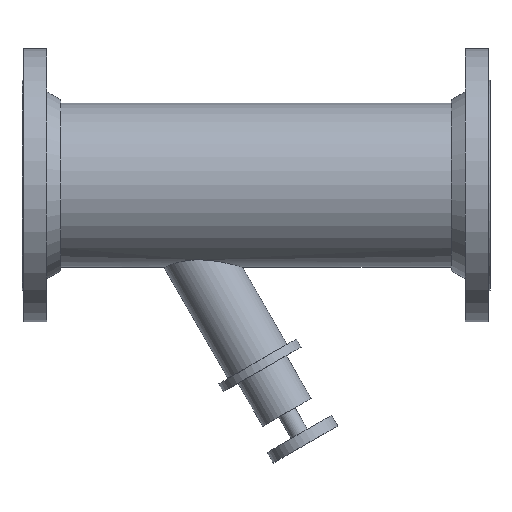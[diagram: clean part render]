
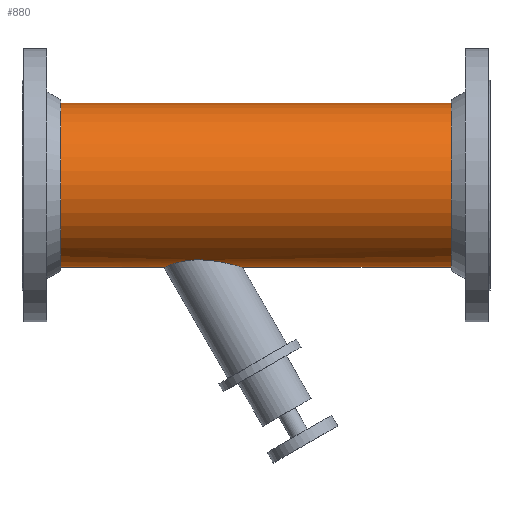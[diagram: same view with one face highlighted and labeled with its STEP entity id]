
A CAD part, top view. The second image highlights one B-rep face of the part: STEP entity #880.
In plain terms, the highlighted cylindrical face has radius 84.138 mm (diameter 168.275 mm), a full revolution.
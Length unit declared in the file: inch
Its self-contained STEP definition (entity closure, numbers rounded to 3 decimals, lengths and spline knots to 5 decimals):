
#47=B_SPLINE_CURVE_WITH_KNOTS('',3,(#1422,#1423,#1424,#1425,#1426,#1427,
#1428,#1429,#1430,#1431,#1432,#1433,#1434,#1435,#1436,#1437,#1438,#1439,
#1440,#1441,#1442,#1443,#1444,#1445,#1446,#1447,#1448,#1449,#1450,#1451,
#1452,#1453,#1454,#1455),.UNSPECIFIED.,.F.,.F.,(4,2,2,2,2,2,2,2,2,2,2,2,
2,2,2,2,4),(6.05031,6.72063,7.39095,8.06127,
8.73158,9.57384,10.4161,11.25836,12.10061,
12.8095,13.5184,14.22729,14.93618,15.59151,
16.24683,16.90216,17.55749),.UNSPECIFIED.);
#48=B_SPLINE_CURVE_WITH_KNOTS('',3,(#1462,#1463,#1464,#1465,#1466,#1467,
#1468,#1469,#1470,#1471,#1472,#1473,#1474,#1475,#1476,#1477,#1478,#1479),
 .UNSPECIFIED.,.F.,.F.,(4,2,2,2,2,2,2,2,4),(17.55749,18.21281,
18.86814,19.52347,20.1788,20.88769,21.59658,
22.30547,23.01436),.UNSPECIFIED.);
#49=B_SPLINE_CURVE_WITH_KNOTS('',3,(#1480,#1481,#1482,#1483,#1484,#1485,
#1486,#1487,#1488,#1489,#1490,#1491,#1492,#1493,#1494,#1495,#1496,#1497),
 .UNSPECIFIED.,.F.,.F.,(4,2,2,2,2,2,2,2,4),(0.,0.84226,1.68451,
2.52677,3.36903,4.03935,4.70967,5.37999,
6.05031),.UNSPECIFIED.);
#51=LINE('',#1420,#81);
#52=LINE('',#1457,#82);
#81=VECTOR('',#1116,3.3125);
#82=VECTOR('',#1117,3.3125);
#111=CYLINDRICAL_SURFACE('',#956,3.3125);
#183=FACE_OUTER_BOUND('',#234,.T.);
#234=EDGE_LOOP('',(#609,#610,#611,#612,#613,#614,#615,#616,#617,#618,#619));
#323=CIRCLE('',#957,3.3125);
#324=CIRCLE('',#958,3.3125);
#325=CIRCLE('',#959,3.3125);
#326=CIRCLE('',#960,3.3125);
#405=VERTEX_POINT('',#1416);
#406=VERTEX_POINT('',#1417);
#407=VERTEX_POINT('',#1419);
#408=VERTEX_POINT('',#1421);
#409=VERTEX_POINT('',#1456);
#410=VERTEX_POINT('',#1458);
#411=VERTEX_POINT('',#1461);
#491=EDGE_CURVE('',#405,#406,#323,.T.);
#492=EDGE_CURVE('',#406,#407,#51,.T.);
#493=EDGE_CURVE('',#407,#408,#47,.T.);
#494=EDGE_CURVE('',#408,#409,#52,.T.);
#495=EDGE_CURVE('',#409,#410,#324,.T.);
#496=EDGE_CURVE('',#410,#409,#325,.T.);
#497=EDGE_CURVE('',#408,#411,#48,.T.);
#498=EDGE_CURVE('',#411,#407,#49,.T.);
#499=EDGE_CURVE('',#406,#405,#326,.T.);
#609=ORIENTED_EDGE('',*,*,#491,.T.);
#610=ORIENTED_EDGE('',*,*,#492,.T.);
#611=ORIENTED_EDGE('',*,*,#493,.T.);
#612=ORIENTED_EDGE('',*,*,#494,.T.);
#613=ORIENTED_EDGE('',*,*,#495,.T.);
#614=ORIENTED_EDGE('',*,*,#496,.T.);
#615=ORIENTED_EDGE('',*,*,#494,.F.);
#616=ORIENTED_EDGE('',*,*,#497,.T.);
#617=ORIENTED_EDGE('',*,*,#498,.T.);
#618=ORIENTED_EDGE('',*,*,#492,.F.);
#619=ORIENTED_EDGE('',*,*,#499,.T.);
#880=ADVANCED_FACE('',(#183),#111,.T.);
#956=AXIS2_PLACEMENT_3D('',#1415,#1112,#1113);
#957=AXIS2_PLACEMENT_3D('',#1418,#1114,#1115);
#958=AXIS2_PLACEMENT_3D('',#1459,#1118,#1119);
#959=AXIS2_PLACEMENT_3D('',#1460,#1120,#1121);
#960=AXIS2_PLACEMENT_3D('',#1498,#1122,#1123);
#1112=DIRECTION('center_axis',(1.,0.,0.));
#1113=DIRECTION('ref_axis',(0.,1.,0.));
#1114=DIRECTION('center_axis',(-1.,0.,0.));
#1115=DIRECTION('ref_axis',(0.,1.,0.));
#1116=DIRECTION('',(-1.,0.,0.));
#1117=DIRECTION('',(-1.,0.,0.));
#1118=DIRECTION('center_axis',(1.,0.,0.));
#1119=DIRECTION('ref_axis',(0.,1.,0.));
#1120=DIRECTION('center_axis',(1.,0.,0.));
#1121=DIRECTION('ref_axis',(0.,1.,0.));
#1122=DIRECTION('center_axis',(-1.,0.,0.));
#1123=DIRECTION('ref_axis',(0.,1.,0.));
#1415=CARTESIAN_POINT('Origin',(0.,0.,0.));
#1416=CARTESIAN_POINT('',(7.89,3.3125,0.));
#1417=CARTESIAN_POINT('',(7.89,-3.3125,0.));
#1418=CARTESIAN_POINT('Origin',(7.89,0.,0.));
#1419=CARTESIAN_POINT('',(-0.54467,-3.3125,0.));
#1420=CARTESIAN_POINT('',(0.,-3.3125,0.));
#1421=CARTESIAN_POINT('',(-3.7201,-3.3125,0.));
#1422=CARTESIAN_POINT('Ctrl Pts',(-0.54467,-3.3125,0.));
#1423=CARTESIAN_POINT('Ctrl Pts',(-0.54467,-3.3125,-0.08797));
#1424=CARTESIAN_POINT('Ctrl Pts',(-0.55664,-3.30891,-0.17699));
#1425=CARTESIAN_POINT('Ctrl Pts',(-0.60385,-3.29504,
-0.35064));
#1426=CARTESIAN_POINT('Ctrl Pts',(-0.63906,-3.28477,
-0.43527));
#1427=CARTESIAN_POINT('Ctrl Pts',(-0.72801,-3.25965,-0.59486));
#1428=CARTESIAN_POINT('Ctrl Pts',(-0.78182,-3.2448,
-0.67001));
#1429=CARTESIAN_POINT('Ctrl Pts',(-0.90107,-3.21335,
-0.80746));
#1430=CARTESIAN_POINT('Ctrl Pts',(-0.96651,-3.19678,
-0.86977));
#1431=CARTESIAN_POINT('Ctrl Pts',(-1.11734,-3.16076,-0.9937));
#1432=CARTESIAN_POINT('Ctrl Pts',(-1.21081,-3.13986,-1.05708));
#1433=CARTESIAN_POINT('Ctrl Pts',(-1.41111,-3.10011,-1.16855));
#1434=CARTESIAN_POINT('Ctrl Pts',(-1.51792,-3.08127,-1.21664));
#1435=CARTESIAN_POINT('Ctrl Pts',(-1.73852,-3.04928,-1.29474));
#1436=CARTESIAN_POINT('Ctrl Pts',(-1.85238,-3.03614,-1.32476));
#1437=CARTESIAN_POINT('Ctrl Pts',(-2.08031,-3.01831,-1.36491));
#1438=CARTESIAN_POINT('Ctrl Pts',(-2.1944,-3.01364,-1.375));
#1439=CARTESIAN_POINT('Ctrl Pts',(-2.39796,-3.01364,-1.375));
#1440=CARTESIAN_POINT('Ctrl Pts',(-2.49454,-3.01696,-1.36781));
#1441=CARTESIAN_POINT('Ctrl Pts',(-2.68648,-3.03145,-1.33539));
#1442=CARTESIAN_POINT('Ctrl Pts',(-2.78183,-3.04263,-1.31014));
#1443=CARTESIAN_POINT('Ctrl Pts',(-2.9637,-3.07151,-1.24092));
#1444=CARTESIAN_POINT('Ctrl Pts',(-3.05041,-3.08922,-1.19686));
#1445=CARTESIAN_POINT('Ctrl Pts',(-3.20929,-3.12765,-1.0925));
#1446=CARTESIAN_POINT('Ctrl Pts',(-3.28148,-3.14832,-1.03219));
#1447=CARTESIAN_POINT('Ctrl Pts',(-3.40295,-3.18671,-0.9064));
#1448=CARTESIAN_POINT('Ctrl Pts',(-3.45707,-3.20566,-0.83802));
#1449=CARTESIAN_POINT('Ctrl Pts',(-3.55162,-3.24097,-0.68892));
#1450=CARTESIAN_POINT('Ctrl Pts',(-3.59208,-3.2573,-0.6082));
#1451=CARTESIAN_POINT('Ctrl Pts',(-3.65669,-3.2843,-0.43969));
#1452=CARTESIAN_POINT('Ctrl Pts',(-3.6809,-3.29496,-0.35178));
#1453=CARTESIAN_POINT('Ctrl Pts',(-3.71261,-3.30907,-0.17493));
#1454=CARTESIAN_POINT('Ctrl Pts',(-3.7201,-3.3125,-0.086));
#1455=CARTESIAN_POINT('Ctrl Pts',(-3.7201,-3.3125,0.));
#1456=CARTESIAN_POINT('',(-7.89,-3.3125,0.));
#1457=CARTESIAN_POINT('',(0.,-3.3125,0.));
#1458=CARTESIAN_POINT('',(-7.89,3.3125,0.));
#1459=CARTESIAN_POINT('Origin',(-7.89,0.,0.));
#1460=CARTESIAN_POINT('Origin',(-7.89,0.,0.));
#1461=CARTESIAN_POINT('',(-2.30493,-3.01364,1.375));
#1462=CARTESIAN_POINT('Ctrl Pts',(-3.7201,-3.3125,0.));
#1463=CARTESIAN_POINT('Ctrl Pts',(-3.7201,-3.3125,0.086));
#1464=CARTESIAN_POINT('Ctrl Pts',(-3.71261,-3.30907,0.17493));
#1465=CARTESIAN_POINT('Ctrl Pts',(-3.6809,-3.29496,0.35178));
#1466=CARTESIAN_POINT('Ctrl Pts',(-3.65669,-3.2843,0.43969));
#1467=CARTESIAN_POINT('Ctrl Pts',(-3.59208,-3.2573,0.6082));
#1468=CARTESIAN_POINT('Ctrl Pts',(-3.55162,-3.24097,0.68892));
#1469=CARTESIAN_POINT('Ctrl Pts',(-3.45707,-3.20566,0.83802));
#1470=CARTESIAN_POINT('Ctrl Pts',(-3.40295,-3.18671,0.9064));
#1471=CARTESIAN_POINT('Ctrl Pts',(-3.28148,-3.14832,1.03219));
#1472=CARTESIAN_POINT('Ctrl Pts',(-3.20929,-3.12765,1.0925));
#1473=CARTESIAN_POINT('Ctrl Pts',(-3.05041,-3.08922,1.19686));
#1474=CARTESIAN_POINT('Ctrl Pts',(-2.9637,-3.07151,1.24092));
#1475=CARTESIAN_POINT('Ctrl Pts',(-2.78183,-3.04263,1.31014));
#1476=CARTESIAN_POINT('Ctrl Pts',(-2.68648,-3.03145,1.33539));
#1477=CARTESIAN_POINT('Ctrl Pts',(-2.49454,-3.01696,1.36781));
#1478=CARTESIAN_POINT('Ctrl Pts',(-2.39796,-3.01364,1.375));
#1479=CARTESIAN_POINT('Ctrl Pts',(-2.30493,-3.01364,1.375));
#1480=CARTESIAN_POINT('Ctrl Pts',(-2.30493,-3.01364,1.375));
#1481=CARTESIAN_POINT('Ctrl Pts',(-2.1944,-3.01364,1.375));
#1482=CARTESIAN_POINT('Ctrl Pts',(-2.08031,-3.01831,1.36491));
#1483=CARTESIAN_POINT('Ctrl Pts',(-1.85238,-3.03614,1.32476));
#1484=CARTESIAN_POINT('Ctrl Pts',(-1.73852,-3.04928,1.29474));
#1485=CARTESIAN_POINT('Ctrl Pts',(-1.51792,-3.08127,1.21664));
#1486=CARTESIAN_POINT('Ctrl Pts',(-1.41111,-3.10011,1.16855));
#1487=CARTESIAN_POINT('Ctrl Pts',(-1.21081,-3.13986,1.05708));
#1488=CARTESIAN_POINT('Ctrl Pts',(-1.11734,-3.16076,0.9937));
#1489=CARTESIAN_POINT('Ctrl Pts',(-0.96651,-3.19678,
0.86977));
#1490=CARTESIAN_POINT('Ctrl Pts',(-0.90107,-3.21335,
0.80746));
#1491=CARTESIAN_POINT('Ctrl Pts',(-0.78182,-3.2448,
0.67001));
#1492=CARTESIAN_POINT('Ctrl Pts',(-0.72801,-3.25965,0.59486));
#1493=CARTESIAN_POINT('Ctrl Pts',(-0.63906,-3.28477,
0.43527));
#1494=CARTESIAN_POINT('Ctrl Pts',(-0.60385,-3.29504,
0.35064));
#1495=CARTESIAN_POINT('Ctrl Pts',(-0.55664,-3.30891,
0.17699));
#1496=CARTESIAN_POINT('Ctrl Pts',(-0.54467,-3.3125,0.08797));
#1497=CARTESIAN_POINT('Ctrl Pts',(-0.54467,-3.3125,0.));
#1498=CARTESIAN_POINT('Origin',(7.89,0.,0.));
